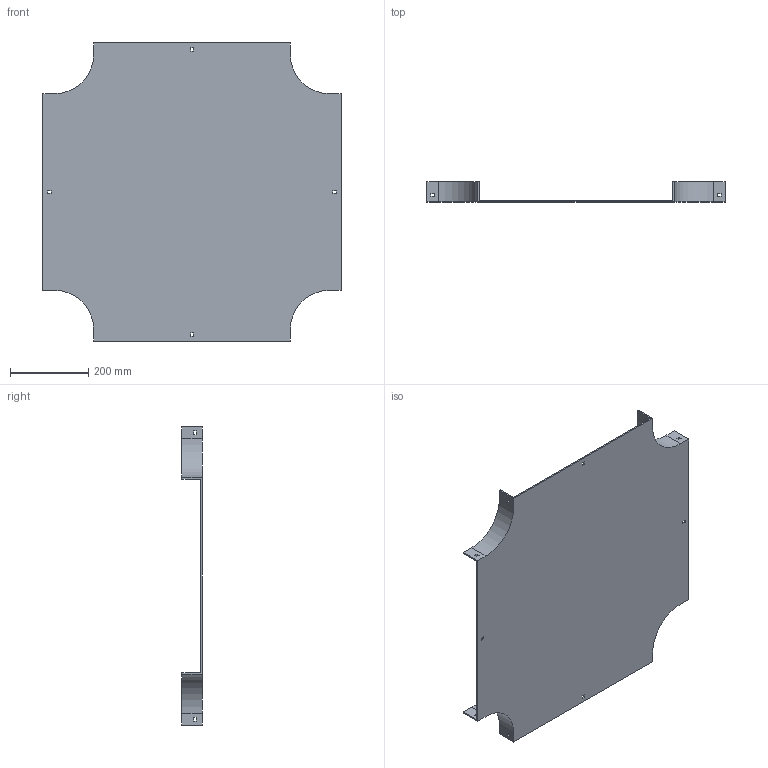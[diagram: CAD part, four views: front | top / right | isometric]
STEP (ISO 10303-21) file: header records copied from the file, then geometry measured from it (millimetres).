
FILE_DESCRIPTION (( 'STEP AP214' ), '1' );
FILE_NAME ('17F1B500.step', '2025-02-21T13:05:55', ( '' ), ( '' ), 'SwSTEP 2.0', 'SolidWorks 2023', '' );
FILE_SCHEMA (( 'AUTOMOTIVE_DESIGN' ));
Length unit declared in the file: millimetre
Products named in the file (1): 17F1B500
Bounding box: 764 x 52 x 764 mm (x, y, z)
Volume: 1982864.8 mm3; surface area: 1145904.7 mm2
Topology: 1 solids, 1 shells, 82 faces, 240 edges, 160 vertices
Faces by surface type: plane 74, cylinder 8
Entity records: 2751 total; most frequent: CARTESIAN_POINT 483, ORIENTED_EDGE 480, DIRECTION 422, EDGE_CURVE 240, LINE 224, VECTOR 224, VERTEX_POINT 160, EDGE_LOOP 106
